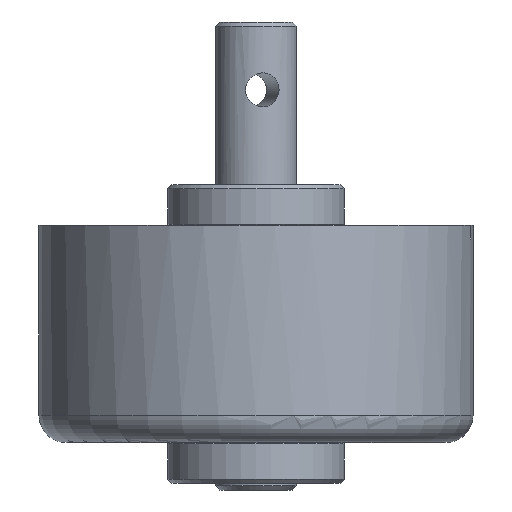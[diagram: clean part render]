
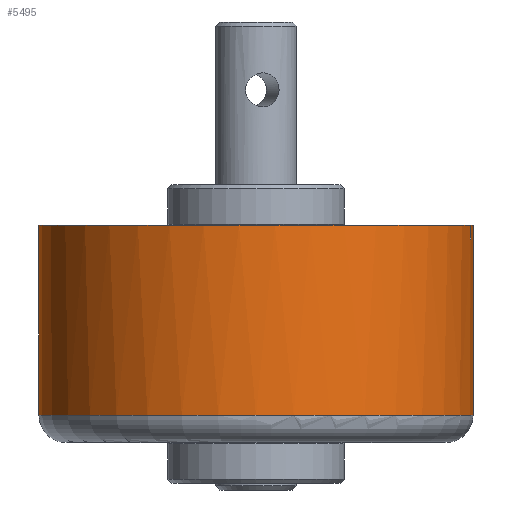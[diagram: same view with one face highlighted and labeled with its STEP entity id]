
A CAD part, front view. The second image highlights one B-rep face of the part: STEP entity #5495.
In plain terms, the highlighted cylindrical face has radius 16 mm (diameter 32 mm), a partial arc.
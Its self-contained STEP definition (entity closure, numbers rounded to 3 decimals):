
#332 = VERTEX_POINT ( 'NONE', #1371 ) ;
#379 = ORIENTED_EDGE ( 'NONE', *, *, #7084, .F. ) ;
#416 = CIRCLE ( 'NONE', #3065, 16. ) ;
#454 = ORIENTED_EDGE ( 'NONE', *, *, #4867, .F. ) ;
#475 = CARTESIAN_POINT ( 'NONE',  ( 15.848, 5.8, 15. ) ) ;
#603 = DIRECTION ( 'NONE',  ( 0., 0., 1. ) ) ;
#852 = AXIS2_PLACEMENT_3D ( 'NONE', #5899, #7005, #1055 ) ;
#894 = ORIENTED_EDGE ( 'NONE', *, *, #5245, .T. ) ;
#939 = EDGE_CURVE ( 'NONE', #332, #2378, #416, .T. ) ;
#957 = CARTESIAN_POINT ( 'NONE',  ( 16., 8., 1. ) ) ;
#1055 = DIRECTION ( 'NONE',  ( -1., 0., 0. ) ) ;
#1113 = DIRECTION ( 'NONE',  ( 1., 0., 0. ) ) ;
#1353 = DIRECTION ( 'NONE',  ( 0., 0., 1. ) ) ;
#1371 = CARTESIAN_POINT ( 'NONE',  ( 15.848, 5.8, 16. ) ) ;
#1584 = DIRECTION ( 'NONE',  ( 0., 0., -1. ) ) ;
#1638 = CARTESIAN_POINT ( 'NONE',  ( 0., 8., 2. ) ) ;
#1740 = CARTESIAN_POINT ( 'NONE',  ( 16., 8., 2. ) ) ;
#1900 = VERTEX_POINT ( 'NONE', #6062 ) ;
#2080 = LINE ( 'NONE', #4275, #6710 ) ;
#2225 = EDGE_CURVE ( 'NONE', #332, #3182, #2080, .T. ) ;
#2250 = DIRECTION ( 'NONE',  ( -1., 0., 0. ) ) ;
#2288 = ORIENTED_EDGE ( 'NONE', *, *, #939, .F. ) ;
#2366 = DIRECTION ( 'NONE',  ( 0., 0., -1. ) ) ;
#2378 = VERTEX_POINT ( 'NONE', #3318 ) ;
#2382 = VECTOR ( 'NONE', #1353, 1000. ) ;
#2423 = CIRCLE ( 'NONE', #6078, 16. ) ;
#2433 = ORIENTED_EDGE ( 'NONE', *, *, #6418, .T. ) ;
#2436 = DIRECTION ( 'NONE',  ( 1., 0., 0. ) ) ;
#2616 = EDGE_CURVE ( 'NONE', #4249, #5105, #4662, .T. ) ;
#2909 = CARTESIAN_POINT ( 'NONE',  ( -16., 8., 2. ) ) ;
#3065 = AXIS2_PLACEMENT_3D ( 'NONE', #4487, #603, #1113 ) ;
#3067 = ORIENTED_EDGE ( 'NONE', *, *, #2616, .T. ) ;
#3182 = VERTEX_POINT ( 'NONE', #475 ) ;
#3253 = EDGE_LOOP ( 'NONE', ( #3067, #7015, #894, #2433, #379, #2288, #4976, #454 ) ) ;
#3274 = CIRCLE ( 'NONE', #5325, 16. ) ;
#3318 = CARTESIAN_POINT ( 'NONE',  ( 16., 8., 16. ) ) ;
#3507 = VECTOR ( 'NONE', #2366, 1000. ) ;
#3587 = CARTESIAN_POINT ( 'NONE',  ( 15.803, 5.5, 15. ) ) ;
#3900 = DIRECTION ( 'NONE',  ( 0., 0., 1. ) ) ;
#4050 = LINE ( 'NONE', #6650, #3507 ) ;
#4103 = VECTOR ( 'NONE', #6984, 1000. ) ;
#4189 = CARTESIAN_POINT ( 'NONE',  ( 15.803, 5.5, 15. ) ) ;
#4239 = DIRECTION ( 'NONE',  ( 0., 0., 1. ) ) ;
#4249 = VERTEX_POINT ( 'NONE', #4189 ) ;
#4275 = CARTESIAN_POINT ( 'NONE',  ( 15.848, 5.8, 16. ) ) ;
#4302 = CIRCLE ( 'NONE', #5214, 16. ) ;
#4487 = CARTESIAN_POINT ( 'NONE',  ( 0., 8., 16. ) ) ;
#4662 = LINE ( 'NONE', #3587, #2382 ) ;
#4745 = VERTEX_POINT ( 'NONE', #2909 ) ;
#4759 = CARTESIAN_POINT ( 'NONE',  ( 0., 8., 16. ) ) ;
#4865 = CYLINDRICAL_SURFACE ( 'NONE', #852, 16. ) ;
#4867 = EDGE_CURVE ( 'NONE', #4249, #3182, #3274, .T. ) ;
#4880 = LINE ( 'NONE', #957, #4103 ) ;
#4976 = ORIENTED_EDGE ( 'NONE', *, *, #2225, .T. ) ;
#5105 = VERTEX_POINT ( 'NONE', #6441 ) ;
#5214 = AXIS2_PLACEMENT_3D ( 'NONE', #4759, #5223, #2436 ) ;
#5223 = DIRECTION ( 'NONE',  ( 0., 0., 1. ) ) ;
#5236 = CARTESIAN_POINT ( 'NONE',  ( 0., 8., 15. ) ) ;
#5245 = EDGE_CURVE ( 'NONE', #1900, #4745, #4050, .T. ) ;
#5270 = EDGE_CURVE ( 'NONE', #1900, #5105, #4302, .T. ) ;
#5325 = AXIS2_PLACEMENT_3D ( 'NONE', #5236, #4239, #5804 ) ;
#5495 = ADVANCED_FACE ( 'NONE', ( #6433 ), #4865, .T. ) ;
#5804 = DIRECTION ( 'NONE',  ( 1., 0., 0. ) ) ;
#5899 = CARTESIAN_POINT ( 'NONE',  ( 0., 8., 1. ) ) ;
#6062 = CARTESIAN_POINT ( 'NONE',  ( -16., 8., 16. ) ) ;
#6078 = AXIS2_PLACEMENT_3D ( 'NONE', #1638, #3900, #2250 ) ;
#6418 = EDGE_CURVE ( 'NONE', #4745, #6528, #2423, .T. ) ;
#6433 = FACE_OUTER_BOUND ( 'NONE', #3253, .T. ) ;
#6441 = CARTESIAN_POINT ( 'NONE',  ( 15.803, 5.5, 16. ) ) ;
#6528 = VERTEX_POINT ( 'NONE', #1740 ) ;
#6650 = CARTESIAN_POINT ( 'NONE',  ( -16., 8., 1. ) ) ;
#6710 = VECTOR ( 'NONE', #1584, 1000. ) ;
#6984 = DIRECTION ( 'NONE',  ( 0., 0., -1. ) ) ;
#7005 = DIRECTION ( 'NONE',  ( 0., 0., -1. ) ) ;
#7015 = ORIENTED_EDGE ( 'NONE', *, *, #5270, .F. ) ;
#7084 = EDGE_CURVE ( 'NONE', #2378, #6528, #4880, .T. ) ;
